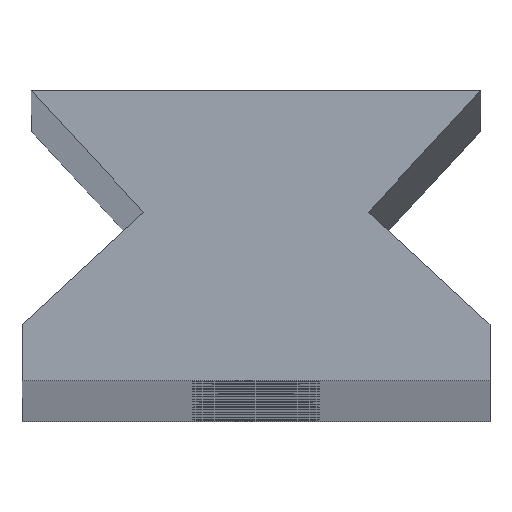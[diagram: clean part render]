
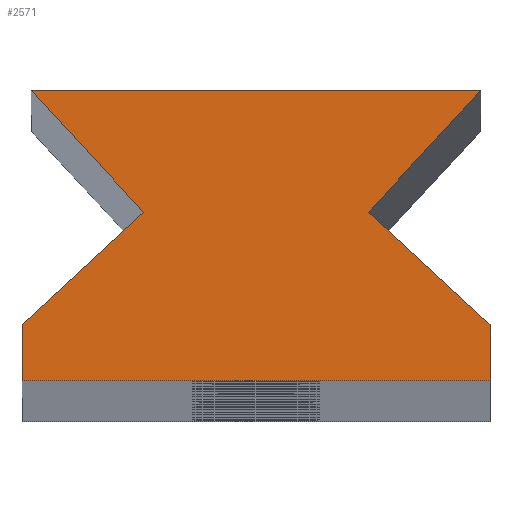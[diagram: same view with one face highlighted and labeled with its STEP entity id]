
A CAD part, top view. The second image highlights one B-rep face of the part: STEP entity #2571.
In plain terms, the highlighted planar face has unit normal (0, 0, 1).
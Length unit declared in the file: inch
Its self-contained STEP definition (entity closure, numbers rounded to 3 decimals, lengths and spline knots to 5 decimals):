
#32 = EDGE_LOOP ( 'NONE', ( #4005, #162, #820, #345, #3334, #1438, #1644, #587 ) ) ;
#82 = CARTESIAN_POINT ( 'NONE',  ( 0.25, 0.06, 12.5 ) ) ;
#155 = DIRECTION ( 'NONE',  ( -0.735, 0.678, 0. ) ) ;
#162 = ORIENTED_EDGE ( 'NONE', *, *, #3689, .T. ) ;
#215 = CARTESIAN_POINT ( 'NONE',  ( 0.12, 0.18, 12.5 ) ) ;
#345 = ORIENTED_EDGE ( 'NONE', *, *, #1707, .T. ) ;
#375 = LINE ( 'NONE', #215, #628 ) ;
#404 = EDGE_CURVE ( 'NONE', #1349, #1098, #2494, .T. ) ;
#416 = DIRECTION ( 'NONE',  ( -1., 0., 0. ) ) ;
#497 = VERTEX_POINT ( 'NONE', #1914 ) ;
#587 = ORIENTED_EDGE ( 'NONE', *, *, #3113, .T. ) ;
#628 = VECTOR ( 'NONE', #155, 39.37008 ) ;
#642 = VERTEX_POINT ( 'NONE', #1570 ) ;
#668 = DIRECTION ( 'NONE',  ( -1., 0., 0. ) ) ;
#669 = CARTESIAN_POINT ( 'NONE',  ( -0.24, 0.31, 12.5 ) ) ;
#673 = DIRECTION ( 'NONE',  ( 0., 0., -1. ) ) ;
#697 = CARTESIAN_POINT ( 'NONE',  ( -0.12, 0.18, 12.5 ) ) ;
#713 = PLANE ( 'NONE',  #3482 ) ;
#757 = LINE ( 'NONE', #1109, #1382 ) ;
#813 = EDGE_CURVE ( 'NONE', #497, #1727, #757, .T. ) ;
#820 = ORIENTED_EDGE ( 'NONE', *, *, #1882, .T. ) ;
#859 = LINE ( 'NONE', #3511, #1450 ) ;
#1057 = EDGE_CURVE ( 'NONE', #1098, #3370, #375, .T. ) ;
#1061 = DIRECTION ( 'NONE',  ( 0.678, -0.735, 0. ) ) ;
#1098 = VERTEX_POINT ( 'NONE', #82 ) ;
#1109 = CARTESIAN_POINT ( 'NONE',  ( -0.12, 0.18, 12.5 ) ) ;
#1203 = EDGE_CURVE ( 'NONE', #3370, #3278, #859, .T. ) ;
#1272 = CARTESIAN_POINT ( 'NONE',  ( 0.25, 0., 12.5 ) ) ;
#1349 = VERTEX_POINT ( 'NONE', #1272 ) ;
#1382 = VECTOR ( 'NONE', #1061, 39.37008 ) ;
#1414 = VECTOR ( 'NONE', #416, 39.37008 ) ;
#1438 = ORIENTED_EDGE ( 'NONE', *, *, #1057, .T. ) ;
#1450 = VECTOR ( 'NONE', #3439, 39.37008 ) ;
#1570 = CARTESIAN_POINT ( 'NONE',  ( -0.25, 0.06, 12.5 ) ) ;
#1644 = ORIENTED_EDGE ( 'NONE', *, *, #1203, .T. ) ;
#1707 = EDGE_CURVE ( 'NONE', #1722, #1349, #4063, .T. ) ;
#1722 = VERTEX_POINT ( 'NONE', #4006 ) ;
#1727 = VERTEX_POINT ( 'NONE', #4219 ) ;
#1882 = EDGE_CURVE ( 'NONE', #642, #1722, #2270, .T. ) ;
#1914 = CARTESIAN_POINT ( 'NONE',  ( -0.24, 0.31, 12.5 ) ) ;
#2100 = VECTOR ( 'NONE', #3572, 39.37008 ) ;
#2251 = LINE ( 'NONE', #669, #1414 ) ;
#2270 = LINE ( 'NONE', #3018, #2982 ) ;
#2317 = DIRECTION ( 'NONE',  ( 0., 1., 0. ) ) ;
#2355 = CARTESIAN_POINT ( 'NONE',  ( 0.25, 0.06, 12.5 ) ) ;
#2494 = LINE ( 'NONE', #2355, #4209 ) ;
#2571 = ADVANCED_FACE ( 'NONE', ( #4148 ), #713, .F. ) ;
#2982 = VECTOR ( 'NONE', #2997, 39.37008 ) ;
#2997 = DIRECTION ( 'NONE',  ( 0., -1., 0. ) ) ;
#3018 = CARTESIAN_POINT ( 'NONE',  ( -0.25, 0., 12.5 ) ) ;
#3113 = EDGE_CURVE ( 'NONE', #3278, #497, #2251, .T. ) ;
#3278 = VERTEX_POINT ( 'NONE', #4133 ) ;
#3334 = ORIENTED_EDGE ( 'NONE', *, *, #404, .T. ) ;
#3370 = VERTEX_POINT ( 'NONE', #3920 ) ;
#3439 = DIRECTION ( 'NONE',  ( 0.678, 0.735, 0. ) ) ;
#3482 = AXIS2_PLACEMENT_3D ( 'NONE', #697, #673, #668 ) ;
#3511 = CARTESIAN_POINT ( 'NONE',  ( 0.24, 0.31, 12.5 ) ) ;
#3571 = CARTESIAN_POINT ( 'NONE',  ( -0.25, 0.06, 12.5 ) ) ;
#3572 = DIRECTION ( 'NONE',  ( -0.735, -0.678, 0. ) ) ;
#3689 = EDGE_CURVE ( 'NONE', #1727, #642, #3767, .T. ) ;
#3767 = LINE ( 'NONE', #3571, #2100 ) ;
#3920 = CARTESIAN_POINT ( 'NONE',  ( 0.12, 0.18, 12.5 ) ) ;
#3987 = VECTOR ( 'NONE', #4081, 39.37008 ) ;
#4005 = ORIENTED_EDGE ( 'NONE', *, *, #813, .T. ) ;
#4006 = CARTESIAN_POINT ( 'NONE',  ( -0.25, 0., 12.5 ) ) ;
#4063 = LINE ( 'NONE', #4208, #3987 ) ;
#4081 = DIRECTION ( 'NONE',  ( 1., 0., 0. ) ) ;
#4133 = CARTESIAN_POINT ( 'NONE',  ( 0.24, 0.31, 12.5 ) ) ;
#4148 = FACE_OUTER_BOUND ( 'NONE', #32, .T. ) ;
#4208 = CARTESIAN_POINT ( 'NONE',  ( 0.25, 0., 12.5 ) ) ;
#4209 = VECTOR ( 'NONE', #2317, 39.37008 ) ;
#4219 = CARTESIAN_POINT ( 'NONE',  ( -0.12, 0.18, 12.5 ) ) ;
